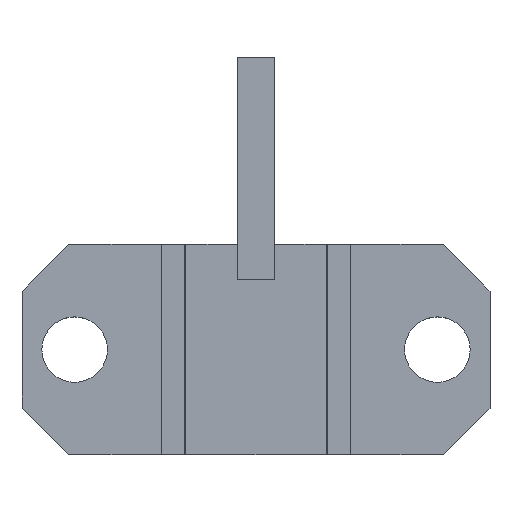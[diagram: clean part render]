
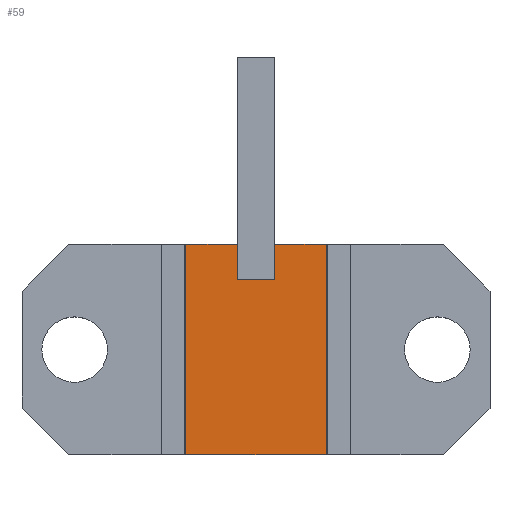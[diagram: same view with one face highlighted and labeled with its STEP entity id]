
A CAD part, top view. The second image highlights one B-rep face of the part: STEP entity #59.
In plain terms, the highlighted planar face has unit normal (0, 0, 1).
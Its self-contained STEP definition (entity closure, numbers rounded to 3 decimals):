
#59=ADVANCED_FACE('',(#330),#332,.T.);
#330=FACE_BOUND('',#331,.T.);
#331=EDGE_LOOP('',(#723,#724,#725,#726,#727,#728,#729,#730));
#332=PLANE('',#333);
#333=AXIS2_PLACEMENT_3D('',#334,#335,#336);
#334=CARTESIAN_POINT('',(0.,0.,3.7));
#335=DIRECTION('',(0.,0.,1.));
#336=DIRECTION('',(-1.,0.,0.));
#723=ORIENTED_EDGE('',*,*,#1020,.F.);
#724=ORIENTED_EDGE('',*,*,#1021,.F.);
#725=ORIENTED_EDGE('',*,*,#1022,.T.);
#726=ORIENTED_EDGE('',*,*,#1023,.T.);
#727=ORIENTED_EDGE('',*,*,#1024,.T.);
#728=ORIENTED_EDGE('',*,*,#1025,.T.);
#729=ORIENTED_EDGE('',*,*,#1026,.T.);
#730=ORIENTED_EDGE('',*,*,#1027,.F.);
#1020=EDGE_CURVE('',#1202,#1203,#1204,.T.);
#1021=EDGE_CURVE('',#1205,#1202,#1206,.T.);
#1022=EDGE_CURVE('',#1205,#1207,#1208,.T.);
#1023=EDGE_CURVE('',#1207,#1209,#1210,.T.);
#1024=EDGE_CURVE('',#1209,#1211,#1212,.T.);
#1025=EDGE_CURVE('',#1211,#1213,#1214,.T.);
#1026=EDGE_CURVE('',#1213,#1215,#1216,.T.);
#1027=EDGE_CURVE('',#1203,#1215,#1217,.T.);
#1202=VERTEX_POINT('',#1387);
#1203=VERTEX_POINT('',#1388);
#1204=LINE('',#1389,#1390);
#1205=VERTEX_POINT('',#1392);
#1206=LINE('',#1393,#1394);
#1207=VERTEX_POINT('',#1396);
#1208=LINE('',#1397,#1398);
#1209=VERTEX_POINT('',#1400);
#1210=LINE('',#1401,#1402);
#1211=VERTEX_POINT('',#1404);
#1212=LINE('',#1405,#1406);
#1213=VERTEX_POINT('',#1408);
#1214=LINE('',#1409,#1410);
#1215=VERTEX_POINT('',#1412);
#1216=LINE('',#1413,#1414);
#1217=LINE('',#1416,#1417);
#1387=CARTESIAN_POINT('',(-0.8,3.,3.7));
#1388=CARTESIAN_POINT('',(0.8,3.,3.7));
#1389=CARTESIAN_POINT('',(-0.8,3.,3.7));
#1390=VECTOR('',#1391,1.);
#1391=DIRECTION('',(1.,0.,0.));
#1392=CARTESIAN_POINT('',(-0.8,4.5,3.7));
#1393=CARTESIAN_POINT('',(-0.8,4.5,3.7));
#1394=VECTOR('',#1395,1.);
#1395=DIRECTION('',(0.,-1.,0.));
#1396=CARTESIAN_POINT('',(-3.,4.5,3.7));
#1397=CARTESIAN_POINT('',(-0.8,4.5,3.7));
#1398=VECTOR('',#1399,1.);
#1399=DIRECTION('',(-1.,0.,0.));
#1400=CARTESIAN_POINT('',(-3.,-4.5,3.7));
#1401=CARTESIAN_POINT('',(-3.,4.5,3.7));
#1402=VECTOR('',#1403,1.);
#1403=DIRECTION('',(0.,-1.,0.));
#1404=CARTESIAN_POINT('',(3.,-4.5,3.7));
#1405=CARTESIAN_POINT('',(-3.,-4.5,3.7));
#1406=VECTOR('',#1407,1.);
#1407=DIRECTION('',(1.,0.,0.));
#1408=CARTESIAN_POINT('',(3.,4.5,3.7));
#1409=CARTESIAN_POINT('',(3.,-4.5,3.7));
#1410=VECTOR('',#1411,1.);
#1411=DIRECTION('',(0.,1.,0.));
#1412=CARTESIAN_POINT('',(0.8,4.5,3.7));
#1413=CARTESIAN_POINT('',(3.,4.5,3.7));
#1414=VECTOR('',#1415,1.);
#1415=DIRECTION('',(-1.,0.,0.));
#1416=CARTESIAN_POINT('',(0.8,3.,3.7));
#1417=VECTOR('',#1418,1.);
#1418=DIRECTION('',(0.,1.,0.));
